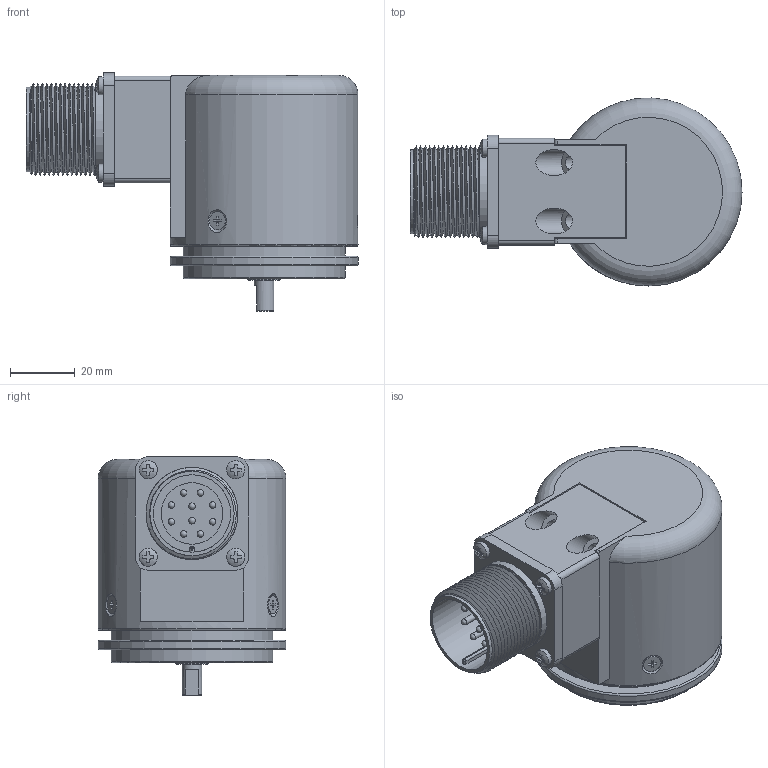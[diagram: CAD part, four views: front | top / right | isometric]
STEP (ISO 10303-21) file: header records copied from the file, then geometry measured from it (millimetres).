
FILE_DESCRIPTION( ( 'Unknown' ), '1' );
FILE_NAME( 'C:/Users/malfermoa/Desktop/step/EL_58B_albero 6 X uscita MR.stp', 'Unknown', ( 'Unknown' ), ( 'Unknown' ), 'PSStep 15.0.49', 'Unknown', ' ' );
FILE_SCHEMA( ( 'AUTOMOTIVE_DESIGN { 1 0 10303 214 1 1 1 1 }' ) );
Length unit declared in the file: millimetre
Products named in the file (1): 23300007 - UNI 6954 ø2.9x9.5 autof.TC+-oa4
Bounding box: 102.5 x 58 x 73.6 mm (x, y, z)
Volume: 100939.7 mm3; surface area: 59173.8 mm2
Topology: 1 solids, 9 shells, 656 faces, 1707 edges, 1106 vertices
Faces by surface type: plane 270, cylinder 226, bspline 65, torus 45, cone 38, sphere 12
Full cylindrical faces by diameter (mm): 2 x22, 2.05 x2, 2.2 x12, 2.459 x3, 2.5 x7, 2.6 x10, 3 x4, 3.242 x3, 3.5 x3, 4.5 x2, 5.6 x7, 6 x2, 7 x1, 8 x2, 10 x10, 10.5 x1, 11 x1, 12 x1, 13.8 x1, 19 x1, 20 x1, 22 x2, 23 x1, 23.9 x1, 25.2 x1, 26 x16, 26.2 x1, 28.4 x1, 49.6 x1, 50 x2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
Entity records: 41033 total; most frequent: CARTESIAN_POINT 22520, ORIENTED_EDGE 2682, DIRECTION 2633, EDGE_CURVE 1341, AXIS2_PLACEMENT_3D 1031, VERTEX_POINT 949, EDGE_LOOP 859, FACE_OUTER_BOUND 739
